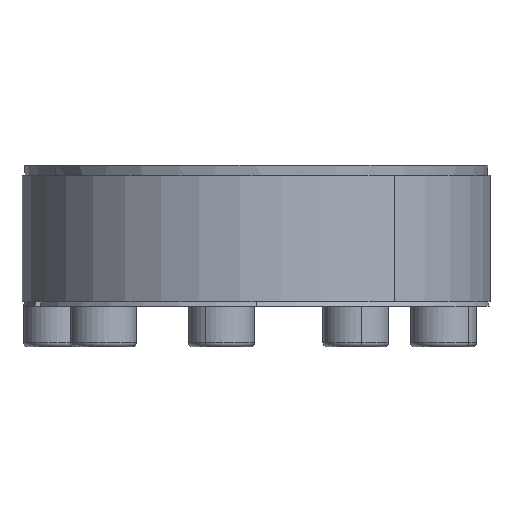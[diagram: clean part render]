
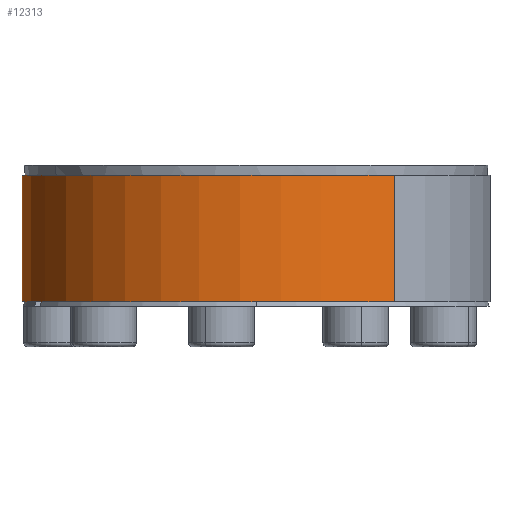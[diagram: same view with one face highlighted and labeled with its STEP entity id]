
A CAD part, left-side view. The second image highlights one B-rep face of the part: STEP entity #12313.
In plain terms, the highlighted cylindrical face has radius 46.485 mm (diameter 92.97 mm), a partial arc.
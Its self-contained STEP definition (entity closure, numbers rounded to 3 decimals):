
#70 = CIRCLE ( 'NONE', #3954, 46.485 ) ;
#474 = VERTEX_POINT ( 'NONE', #11293 ) ;
#593 = ORIENTED_EDGE ( 'NONE', *, *, #10465, .F. ) ;
#1070 = ORIENTED_EDGE ( 'NONE', *, *, #1141, .T. ) ;
#1093 = CARTESIAN_POINT ( 'NONE',  ( 0., 0., 25.969 ) ) ;
#1141 = EDGE_CURVE ( 'NONE', #1486, #6800, #9788, .T. ) ;
#1225 = CARTESIAN_POINT ( 'NONE',  ( 37.607, 27.323, 25.969 ) ) ;
#1486 = VERTEX_POINT ( 'NONE', #3326 ) ;
#1499 = DIRECTION ( 'NONE',  ( 0., 0., -1. ) ) ;
#1559 = VECTOR ( 'NONE', #8677, 1000. ) ;
#1877 = DIRECTION ( 'NONE',  ( 0., 0., 1. ) ) ;
#1890 = LINE ( 'NONE', #1225, #1559 ) ;
#2154 = DIRECTION ( 'NONE',  ( -0.809, -0.588, 0. ) ) ;
#2240 = EDGE_CURVE ( 'NONE', #10328, #6800, #9770, .T. ) ;
#3027 = FACE_OUTER_BOUND ( 'NONE', #7941, .T. ) ;
#3326 = CARTESIAN_POINT ( 'NONE',  ( 37.607, 27.323, 0.969 ) ) ;
#3954 = AXIS2_PLACEMENT_3D ( 'NONE', #1093, #8551, #2154 ) ;
#4526 = CYLINDRICAL_SURFACE ( 'NONE', #13764, 46.485 ) ;
#4840 = AXIS2_PLACEMENT_3D ( 'NONE', #8274, #1877, #9354 ) ;
#5782 = CARTESIAN_POINT ( 'NONE',  ( -37.607, -27.323, 25.969 ) ) ;
#6565 = VECTOR ( 'NONE', #1499, 1000. ) ;
#6800 = VERTEX_POINT ( 'NONE', #9068 ) ;
#7752 = EDGE_CURVE ( 'NONE', #474, #1486, #1890, .T. ) ;
#7941 = EDGE_LOOP ( 'NONE', ( #8100, #593, #10233, #1070 ) ) ;
#8100 = ORIENTED_EDGE ( 'NONE', *, *, #2240, .F. ) ;
#8274 = CARTESIAN_POINT ( 'NONE',  ( 0., 0., 0.969 ) ) ;
#8551 = DIRECTION ( 'NONE',  ( 0., 0., 1. ) ) ;
#8677 = DIRECTION ( 'NONE',  ( 0., 0., -1. ) ) ;
#9068 = CARTESIAN_POINT ( 'NONE',  ( -37.607, -27.323, 0.969 ) ) ;
#9352 = CARTESIAN_POINT ( 'NONE',  ( -37.607, -27.323, 25.969 ) ) ;
#9354 = DIRECTION ( 'NONE',  ( -0.809, -0.588, 0. ) ) ;
#9770 = LINE ( 'NONE', #5782, #6565 ) ;
#9788 = CIRCLE ( 'NONE', #4840, 46.485 ) ;
#10233 = ORIENTED_EDGE ( 'NONE', *, *, #7752, .T. ) ;
#10328 = VERTEX_POINT ( 'NONE', #9352 ) ;
#10465 = EDGE_CURVE ( 'NONE', #474, #10328, #70, .T. ) ;
#11152 = DIRECTION ( 'NONE',  ( 0., 0., -1. ) ) ;
#11293 = CARTESIAN_POINT ( 'NONE',  ( 37.607, 27.323, 25.969 ) ) ;
#12214 = CARTESIAN_POINT ( 'NONE',  ( 0., 0., 25.969 ) ) ;
#12265 = DIRECTION ( 'NONE',  ( 0.809, 0.588, 0. ) ) ;
#12313 = ADVANCED_FACE ( 'NONE', ( #3027 ), #4526, .T. ) ;
#13764 = AXIS2_PLACEMENT_3D ( 'NONE', #12214, #11152, #12265 ) ;
